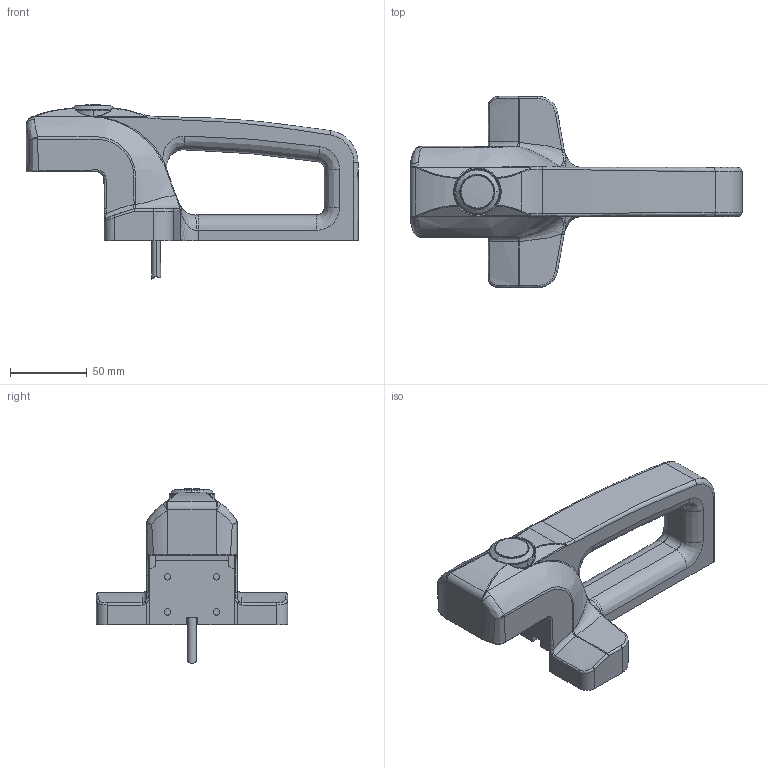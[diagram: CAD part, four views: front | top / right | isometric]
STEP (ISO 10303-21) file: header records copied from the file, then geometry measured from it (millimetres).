
FILE_DESCRIPTION (( 'STEP AP203' ), '1' );
FILE_NAME ('ZF_STEP_AN Sxx001A_PNx.step', '2022-02-02T16:34:56', ( '' ), ( '' ), 'SwSTEP 2.0', 'SolidWorks 2020', '' );
FILE_SCHEMA (( 'CONFIG_CONTROL_DESIGN' ));
Length unit declared in the file: millimetre
Products named in the file (5): ZF_STEP_AN Sxx001A; ZF_STEP_VN_NG-AC26001_A17_bianco; ZF_STEP_AN Sxx001A_PNx; Cavo_AN; ZF_STEP_AN Sxx00x_plastiche
Assembly tree (4 placements, depth 3):
  ZF_STEP_AN Sxx001A_PNx
    ZF_STEP_AN Sxx001A
      ZF_STEP_AN Sxx00x_plastiche
      ZF_STEP_VN_NG-AC26001_A17_bianco
    Cavo_AN
Bounding box: 217 x 125 x 113.82 mm (x, y, z)
Volume: 406328.2 mm3; surface area: 77304 mm2
Topology: 3 solids, 3 shells, 352 faces, 892 edges, 562 vertices
Faces by surface type: bspline 148, plane 101, cylinder 87, cone 12, torus 4
Entity records: 20948 total; most frequent: CARTESIAN_POINT 13331, ORIENTED_EDGE 1772, DIRECTION 1076, EDGE_CURVE 886, VERTEX_POINT 562, AXIS2_PLACEMENT_3D 403, EDGE_LOOP 376, B_SPLINE_CURVE_WITH_KNOTS 357
